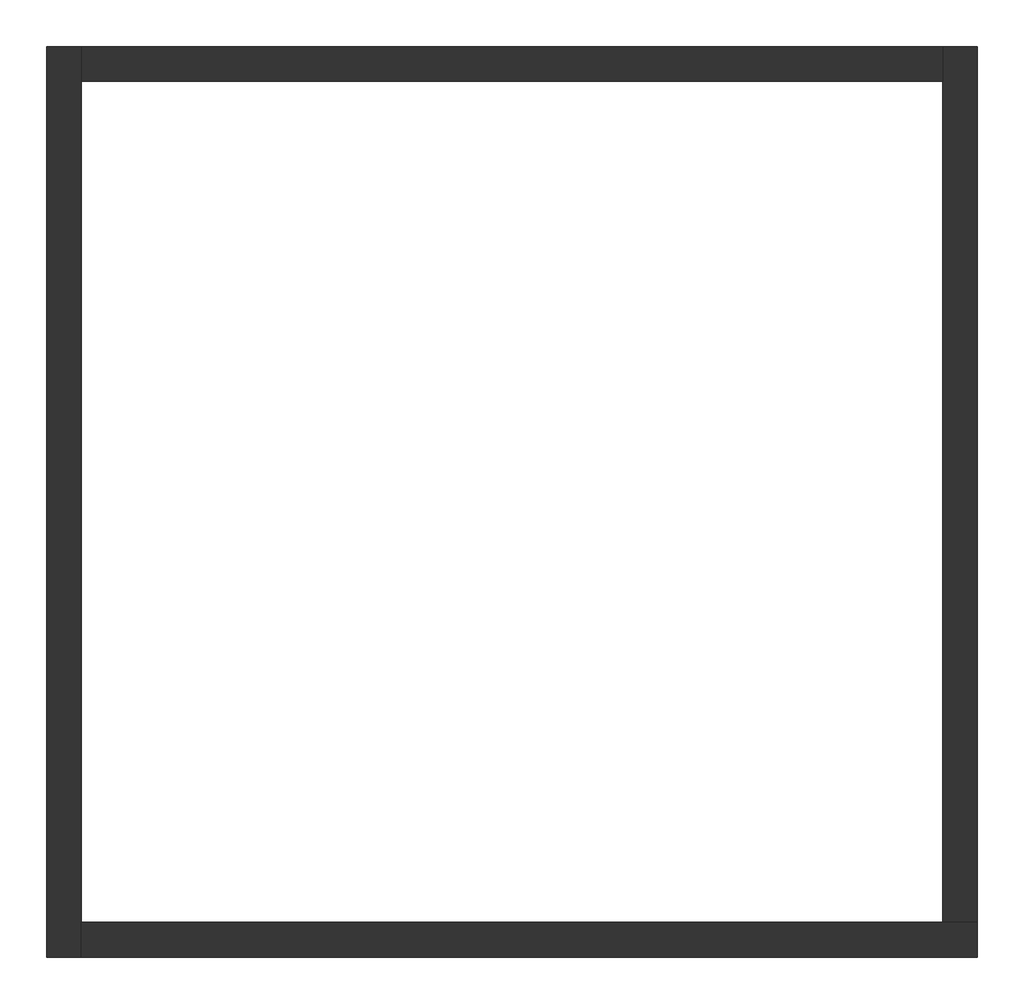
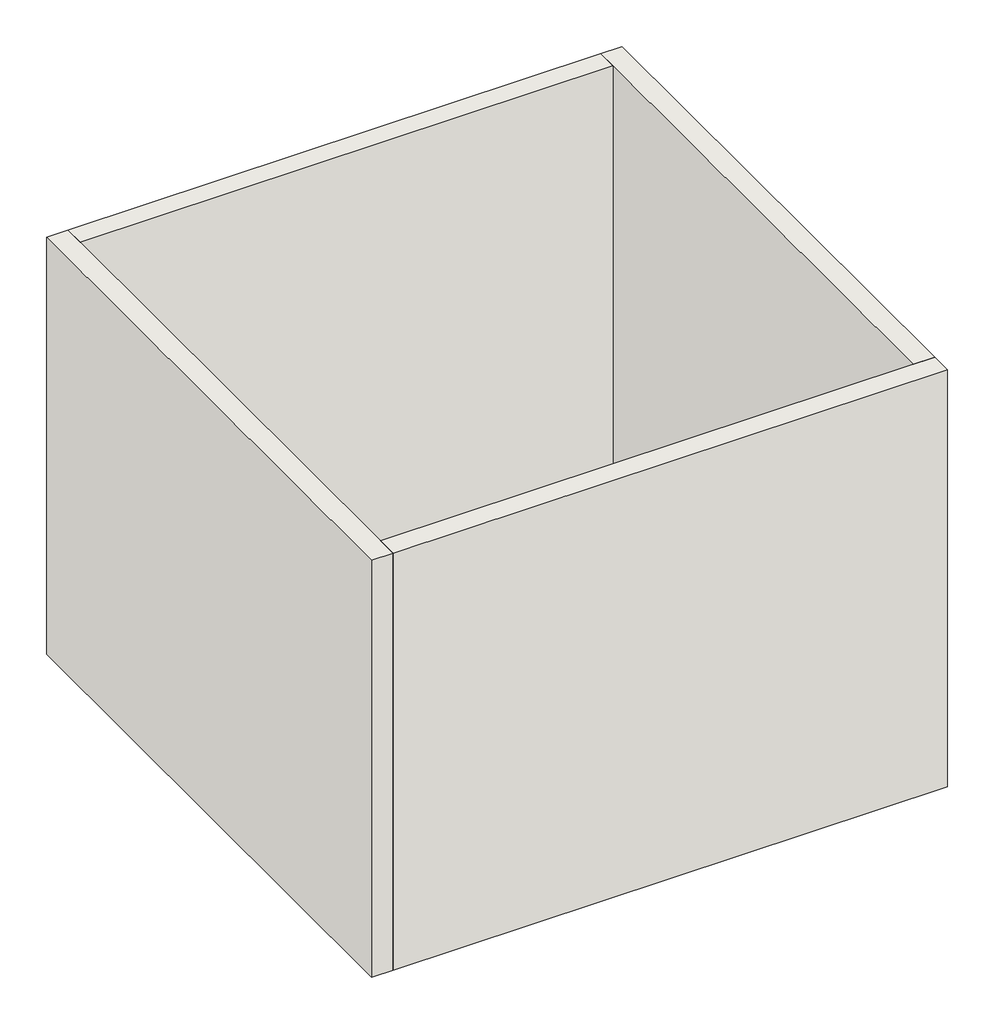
# One storey: 4 walls.
"""IFC4 building model written with IfcOpenShell, lengths in millimetres."""

from ifc_helpers import new_model, si_unit, origin, origin_with_axes, place, context, project, spatial, polyline, outline, extrude, faceted_brep, element, save

model = new_model("IFC4")

# Units and contexts
model_context = context("Model", 3, world=origin())
ifc_project = project(units=[si_unit("LENGTHUNIT", "METRE", prefix="MILLI")], contexts=[model_context])

# Site, building, storey
site = spatial("IfcSite", under=ifc_project)
building = spatial("IfcBuilding", under=site)
storey = spatial("IfcBuildingStorey", under=building, Name="樓層 1", Elevation=0.0)

# Walls
placement = place(None, origin())
element("IfcWall", 1, ObjectType="RC 牆 15cm", at=placement, inside=storey, context=model_context, shape_type="Brep", body=[
    faceted_brep([(-3736.9146257, 5615.3452921, 0.0), (-3736.9146257, 1145.3452921, 0.0), (-3736.9146257, 1145.3452921, 3500.0), (-3736.9146257, 5615.3452921, 3500.0), (-3566.9146257, 5615.3452921, 0.0), (-3566.9146257, 5615.3452921, 3500.0), (-3566.9146257, 5445.3452921, 3500.0), (-3566.9146257, 1315.3452921, 3500.0), (-3566.9146257, 1145.3452921, 3500.0), (-3566.9146257, 1145.3452921, 0.0), (-3566.9146257, 1315.3452921, 0.0), (-3566.9146257, 5445.3452921, 0.0)], [[[0, 1, 2, 3]], [[4, 5, 6, 7, 8, 9, 10, 11]], [[1, 0, 4, 11, 10, 9]], [[3, 2, 8, 7, 6, 5]], [[2, 1, 9, 8]], [[0, 3, 5, 4]]]),
])
element("IfcWall", 2, ObjectType="RC 牆 15cm", at=placement, inside=storey, context=model_context, shape_type="Brep", body=[
    faceted_brep([(-3566.9146257, 1145.3452921, 0.0), (833.0853743, 1145.3452921, 0.0), (833.0853743, 1145.3452921, 3500.0), (-3566.9146257, 1145.3452921, 3500.0), (-3566.9146257, 1315.3452921, 0.0), (-3566.9146257, 1315.3452921, 3500.0), (663.0853743, 1315.3452921, 3500.0), (833.0853743, 1315.3452921, 3500.0), (833.0853743, 1315.3452921, 0.0), (663.0853743, 1315.3452921, 0.0)], [[[0, 1, 2, 3]], [[4, 5, 6, 7, 8, 9]], [[1, 0, 4, 9, 8]], [[3, 2, 7, 6, 5]], [[2, 1, 8, 7]], [[0, 3, 5, 4]]]),
])
element("IfcWall", 3, ObjectType="RC 牆 15cm", at=placement, inside=storey, context=model_context, shape_type="Brep", body=[
    faceted_brep([(833.0853743, 1315.3452921, 0.0), (833.0853743, 5615.3452921, 0.0), (833.0853743, 5615.3452921, 3500.0), (833.0853743, 1315.3452921, 3500.0), (663.0853743, 1315.3452921, 0.0), (663.0853743, 1315.3452921, 3500.0), (663.0853743, 5445.3452921, 3500.0), (663.0853743, 5615.3452921, 3500.0), (663.0853743, 5615.3452921, 0.0), (663.0853743, 5445.3452921, 0.0)], [[[0, 1, 2, 3]], [[4, 5, 6, 7, 8, 9]], [[1, 0, 4, 9, 8]], [[3, 2, 7, 6, 5]], [[2, 1, 8, 7]], [[0, 3, 5, 4]]]),
])
element("IfcWall", 4, ObjectType="RC 牆 15cm", at=placement, inside=storey, context=model_context, shape_type="SweptSolid", body=[
    extrude(outline(polyline([(-3566.9146257, 5615.3452921), (663.0853743, 5615.3452921), (663.0853743, 5445.3452921), (-3566.9146257, 5445.3452921), (-3566.9146257, 5615.3452921)])), origin_with_axes(), (0.0, 0.0, 1.0), 3500.0),
])

save(model, "model.ifc")
